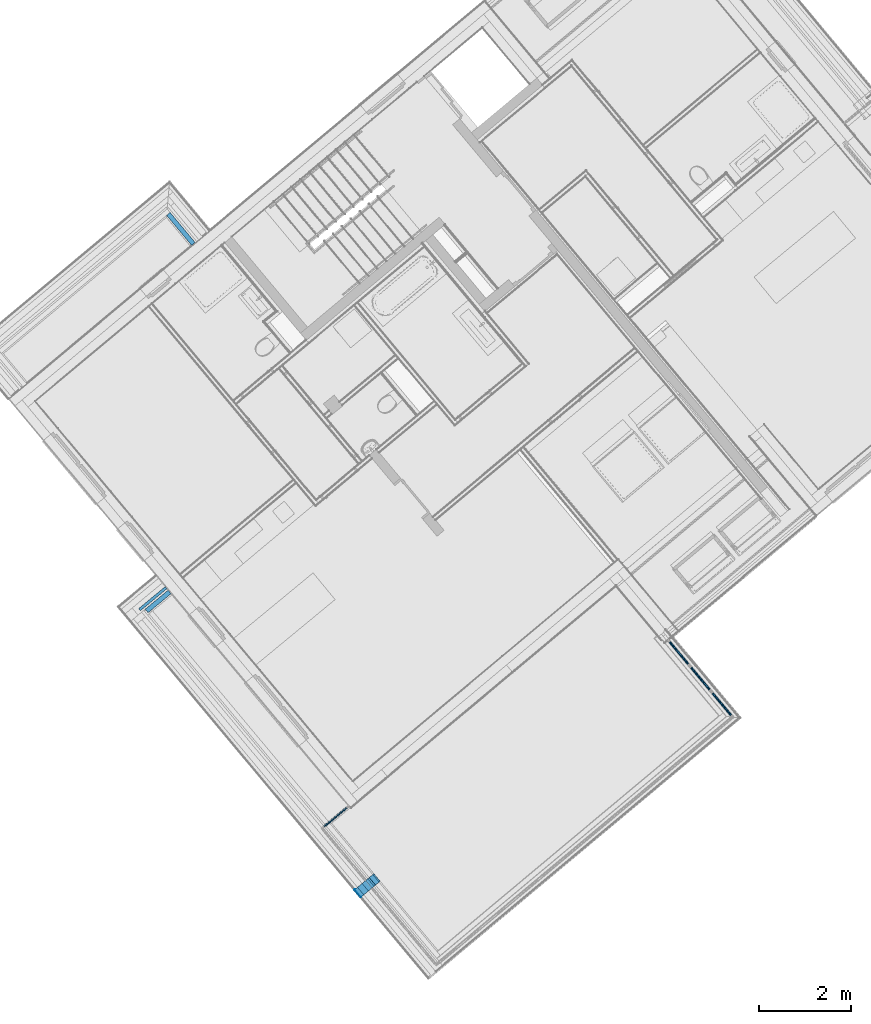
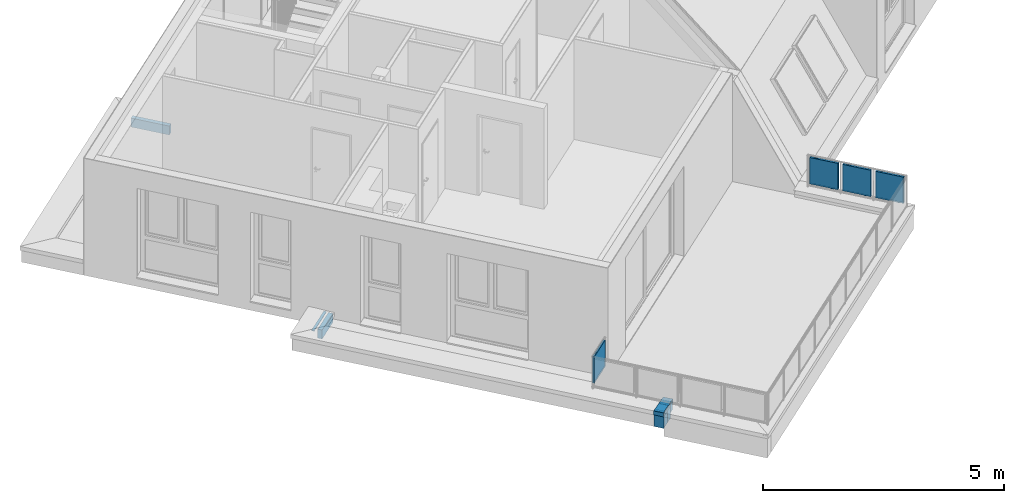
# One storey, part 44 of 61: 20 building element parts, 4 elements without a shape of their own.
"""IFC4 building model written with IfcOpenShell, lengths in metres."""

import ifcopenshell
import ifcopenshell.guid

model = None  # the IFC model being written
_history = None  # IfcOwnerHistory: only IFC2X3 demands one
_inside = {}  # id of a spatial element -> (the spatial element, [elements in it])
_under = {}  # id of a project, library or spatial element -> (it, [spatial elements below it])
_declared = {}  # id of a project -> (the project, [libraries it declares])
_typed = {}  # id of a type object -> (the type object, [elements of that type])
_made_of = {}  # id of a material, layer set ... -> (it, [elements and type objects made of it])


def new_model(schema):
    """Start an empty IFC model of exactly this schema.

    Asked for "IFC4X3", IfcOpenShell would pick the latest addendum, in which some entities
    have other attributes; the version numbers below select the first issue.
    IFC2X3 requires an IfcOwnerHistory on every rooted entity: one is made here for all.
    """
    global model, _history
    if schema == "IFC4X3":
        model = ifcopenshell.file(schema_version=(4, 3, 0, 0))
    else:
        model = ifcopenshell.file(schema=schema)
    _inside.clear()
    _under.clear()
    _declared.clear()
    _typed.clear()
    _made_of.clear()
    _history = None
    if model.schema == "IFC2X3":
        org = make("IfcOrganization", Name="unknown")
        user = make(
            "IfcPersonAndOrganization",
            ThePerson=make("IfcPerson", FamilyName="unknown"),
            TheOrganization=org,
        )
        app = make(
            "IfcApplication",
            ApplicationDeveloper=org,
            Version="unknown",
            ApplicationFullName="unknown",
            ApplicationIdentifier="unknown",
        )
        _history = make(
            "IfcOwnerHistory",
            OwningUser=user,
            OwningApplication=app,
            ChangeAction="ADDED",
            CreationDate=0,
        )
    return model


def make(cls, **values):
    """One entity of the class cls with the attributes given. An attribute that is None is left unset."""
    return model.create_entity(
        cls, **{name: value for name, value in values.items() if value is not None}
    )


def entity(cls, *values):
    """Any entity or typed value of the class cls, its attributes in the order of the schema. None: left unset."""
    e = model.create_entity(cls)
    for i, value in enumerate(values):
        if value is not None:
            e[i] = value
    return e


def rooted(cls, **values):
    """An entity with a GlobalId (a new one), such as an element, a storey or a relation."""
    return make(cls, GlobalId=ifcopenshell.guid.new(), OwnerHistory=_history, **values)


def si_unit(unit_type, name, prefix=None):
    """IfcSIUnit, for example si_unit("LENGTHUNIT", "METRE", prefix="MILLI")."""
    return make("IfcSIUnit", UnitType=unit_type, Prefix=prefix, Name=name)


def converted_unit(unit_type, name, factor, base, dimensions=None, offset=None):
    """IfcConversionBasedUnit, such as the inch: factor (a typed value) times the base unit."""
    return make(
        "IfcConversionBasedUnit"
        if offset is None
        else "IfcConversionBasedUnitWithOffset",
        ConversionOffset=offset,
        Dimensions=None
        if dimensions is None
        else entity("IfcDimensionalExponents", *dimensions),
        UnitType=unit_type,
        Name=name,
        ConversionFactor=make(
            "IfcMeasureWithUnit", ValueComponent=factor, UnitComponent=base
        ),
    )


def derived_unit(unit_type, elements):
    """IfcDerivedUnit: a product of units, each with its exponent."""
    return make(
        "IfcDerivedUnit",
        Elements=[
            make("IfcDerivedUnitElement", Unit=unit, Exponent=power)
            for unit, power in elements
        ],
        UnitType=unit_type,
    )


def assignment(units):
    """IfcUnitAssignment: the units of a project."""
    return None if units is None else make("IfcUnitAssignment", Units=units)


def point(xyz):
    """IfcCartesianPoint."""
    return None if xyz is None else make("IfcCartesianPoint", Coordinates=xyz)


def direction(xyz):
    """IfcDirection."""
    return None if xyz is None else make("IfcDirection", DirectionRatios=xyz)


def frame(location, z_axis=None, x_axis=None):
    """IfcAxis2Placement3D, a coordinate frame: its origin and axes. An axis left out is left unset."""
    return make(
        "IfcAxis2Placement3D",
        Location=point(location),
        Axis=direction(z_axis),
        RefDirection=direction(x_axis),
    )


def origin_with_axes():
    """The frame at (0, 0, 0) with the z axis (0, 0, 1) and the x axis (1, 0, 0) written out."""
    return frame((0.0, 0.0, 0.0), z_axis=(0.0, 0.0, 1.0), x_axis=(1.0, 0.0, 0.0))


def place(relative_to, where):
    """IfcLocalPlacement: puts the frame where relative to a parent placement (None: the world)."""
    return make(
        "IfcLocalPlacement", PlacementRelTo=relative_to, RelativePlacement=where
    )


def context(
    kind, dimensions, precision=None, world=None, true_north=None, identifier=None
):
    """IfcGeometricRepresentationContext, for example the 3D "Model" context."""
    return make(
        "IfcGeometricRepresentationContext",
        ContextIdentifier=identifier,
        ContextType=kind,
        CoordinateSpaceDimension=dimensions,
        Precision=precision,
        WorldCoordinateSystem=world,
        TrueNorth=true_north,
    )


def subcontext(parent, identifier, kind, view, scale=None):
    """IfcGeometricRepresentationSubContext, for example "Body" below "Model"."""
    return make(
        "IfcGeometricRepresentationSubContext",
        ContextIdentifier=identifier,
        ContextType=kind,
        ParentContext=parent,
        TargetScale=scale,
        TargetView=view,
    )


def project(units=None, contexts=None):
    """IfcProject with its units and contexts."""
    return rooted(
        "IfcProject",
        Name="project",
        RepresentationContexts=contexts,
        UnitsInContext=assignment(units),
    )


def spatial(cls, under=None, at=None, **own):
    """A site, building, storey or space (cls), placed at a placement, below another one or the project."""
    s = rooted(cls, ObjectPlacement=at, **own)
    if under is not None:
        _under.setdefault(under.id(), (under, []))[1].append(s)
    return s


def point_list(points):
    """IfcCartesianPointList2D or 3D."""
    cls = (
        "IfcCartesianPointList2D" if len(points[0]) == 2 else "IfcCartesianPointList3D"
    )
    return make(cls, CoordList=points)


def polygons(points, faces, closed=None, point_numbers=None):
    """IfcPolygonalFaceSet: a face is its outer loop, then its inner loops; points numbered from 1."""
    made = []
    for loops in faces:
        if len(loops) == 1:
            made.append(make("IfcIndexedPolygonalFace", CoordIndex=loops[0]))
        else:
            made.append(
                make(
                    "IfcIndexedPolygonalFaceWithVoids",
                    CoordIndex=loops[0],
                    InnerCoordIndices=loops[1:],
                )
            )
    return make(
        "IfcPolygonalFaceSet",
        Coordinates=point_list(points),
        Closed=closed,
        Faces=made,
        PnIndex=point_numbers,
    )


def shape(context_of_items, identifier, shape_type, items):
    """IfcShapeRepresentation: the items that make up one representation, for example the "Body"."""
    return make(
        "IfcShapeRepresentation",
        ContextOfItems=context_of_items,
        RepresentationIdentifier=identifier,
        RepresentationType=shape_type,
        Items=items,
    )


def material(Name=None, Category=None):
    """IfcMaterial."""
    return make("IfcMaterial", Name=Name, Category=Category)


def made_of(thing, what):
    """Note that an element or type object is made of a material, layer set ...; save() writes the relation."""
    if what is not None:
        _made_of.setdefault(what.id(), (what, []))[1].append(thing)
    return thing


def type_object(cls, material=None, **own):
    """A type object (cls), such as IfcWallType, which elements share."""
    return made_of(rooted(cls, **own), material)


def element(
    cls,
    number,
    at=None,
    inside=None,
    cuts=None,
    type_object=None,
    material=None,
    context=None,
    identifier="Body",
    shape_type=None,
    held_by="IfcProductDefinitionShape",
    body=None,
    shapes=None,
    **own,
):
    """One element of the class cls, such as IfcWall. Its Tag is "e" and its number.

    at: its placement. inside: the storey or other place that contains it. cuts: it is an
    opening in that element (IfcRelVoidsElement). A single representation is given by context,
    identifier, shape_type and body (its items); several are given by shapes. held_by: the class
    of the entity that holds the representations. save() writes the other relations.
    """
    e = rooted(cls, Tag="e%d" % number, ObjectPlacement=at, **own)
    if body is not None:
        shapes = [shape(context, identifier, shape_type, body)]
    if shapes is not None:
        e.Representation = make(held_by, Representations=shapes)
    if inside is not None:
        _inside.setdefault(inside.id(), (inside, []))[1].append(e)
    if cuts is not None:
        rooted(
            "IfcRelVoidsElement", RelatingBuildingElement=cuts, RelatedOpeningElement=e
        )
    if type_object is not None:
        _typed.setdefault(type_object.id(), (type_object, []))[1].append(e)
    return made_of(e, material)


def aggregate(whole, parts):
    """IfcRelAggregates: a whole, such as a stair, and the parts it consists of."""
    return rooted("IfcRelAggregates", RelatingObject=whole, RelatedObjects=parts)


def save(model, path):
    """Write the relations noted so far, then the file.

    IfcRelAggregates (storeys below a building ...), IfcRelContainedInSpatialStructure (elements
    in a storey), IfcRelDefinesByType, IfcRelAssociatesMaterial and IfcRelDeclares: one each for
    every whole, place, type object, material and project.
    """
    for whole, parts in _under.values():
        aggregate(whole, parts)
    for where, things in _inside.values():
        rooted(
            "IfcRelContainedInSpatialStructure",
            RelatedElements=things,
            RelatingStructure=where,
        )
    for kind, things in _typed.values():
        rooted("IfcRelDefinesByType", RelatedObjects=things, RelatingType=kind)
    for what, things in _made_of.values():
        rooted("IfcRelAssociatesMaterial", RelatedObjects=things, RelatingMaterial=what)
    for by, libraries in _declared.values():
        rooted("IfcRelDeclares", RelatingContext=by, RelatedDefinitions=libraries)
    model.write(path)


model = new_model("IFC4")

# Units and contexts
model_context = context("Model", 3, precision=1e-05, world=origin_with_axes(), true_north=direction((0.0, 1.0)))
body_context = subcontext(model_context, "Body", "Model", "MODEL_VIEW")
ifc_project = project(units=[si_unit("LENGTHUNIT", "METRE"), si_unit("AREAUNIT", "SQUARE_METRE"), si_unit("VOLUMEUNIT", "CUBIC_METRE"), converted_unit("PLANEANGLEUNIT", "DEGREE", entity("IfcPlaneAngleMeasure", 0.0174532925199), si_unit("PLANEANGLEUNIT", "RADIAN"), dimensions=[0, 0, 0, 0, 0, 0, 0]), converted_unit("TIMEUNIT", "Year", entity("IfcTimeMeasure", 31556926.0), si_unit("TIMEUNIT", "SECOND"), dimensions=[0, 0, 1, 0, 0, 0, 0]), si_unit("MASSUNIT", "GRAM", prefix="KILO"), si_unit("THERMODYNAMICTEMPERATUREUNIT", "DEGREE_CELSIUS"), si_unit("LUMINOUSINTENSITYUNIT", "LUMEN"), si_unit("ENERGYUNIT", "JOULE", prefix="MEGA"), derived_unit("THERMALCONDUCTANCEUNIT", [(si_unit("POWERUNIT", "WATT"), 1), (si_unit("LENGTHUNIT", "METRE"), -1), (si_unit("THERMODYNAMICTEMPERATUREUNIT", "KELVIN"), -1)]), derived_unit("SPECIFICHEATCAPACITYUNIT", [(si_unit("ENERGYUNIT", "JOULE"), 1), (si_unit("MASSUNIT", "GRAM", prefix="KILO"), -1), (si_unit("THERMODYNAMICTEMPERATUREUNIT", "KELVIN"), -1)]), derived_unit("MASSDENSITYUNIT", [(si_unit("MASSUNIT", "GRAM", prefix="KILO"), 1), (si_unit("VOLUMEUNIT", "CUBIC_METRE"), -1)])], contexts=[model_context])

# Site, building, storey
site_placement = place(None, frame((-0.00153261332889, -0.00661245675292, 0.0), z_axis=(0.0, 0.0, 1.0), x_axis=(1.0, 0.0, 0.0)))
site = spatial("IfcSite", under=ifc_project, at=site_placement, Name="Gelände", CompositionType="ELEMENT")
building_placement = place(site_placement, origin_with_axes())
building = spatial("IfcBuilding", under=site, at=building_placement, Name="Gebäude", CompositionType="ELEMENT")
storey_placement = place(building_placement, frame((0.0, 0.0, 5.7), z_axis=(0.0, 0.0, 1.0), x_axis=(1.0, 0.0, 0.0)))
storey = spatial("IfcBuildingStorey", under=building, at=storey_placement, Name="DG1", CompositionType="ELEMENT", Elevation=5.7)

# Wall, building element parts
wall_type = type_object("IfcWallType", Name="Bauteil - Attika Terrasse 1.DG 574 x 410", PredefinedType="NOTDEFINED")
wall_1_placement = place(storey_placement, frame((-5.34189117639, 15.0197766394, -0.2), z_axis=(0.0, 0.0, 1.0), x_axis=(-0.768971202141, -0.639283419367, 0.0)))
wall_1 = element("IfcWall", 1, at=wall_1_placement, inside=storey, type_object=wall_type, Name="Wand-003", PredefinedType="NOTDEFINED")
ifc_material_1 = material(Name="EPS 1")
building_element_part_1_placement = place(wall_1_placement, origin_with_axes())
building_element_part_1 = element("IfcBuildingElementPart", 2, at=building_element_part_1_placement, material=ifc_material_1, Name="EPS 1", PredefinedType="NOTDEFINED", context=body_context, shape_type="Tessellation", body=[
    polygons([(0.646310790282, 0.2, 0.559999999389), (0.646099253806, 0.3, 0.559999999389), (0.0, 0.3, 0.560000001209), (0.0, 0.2, 0.560000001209), (0.646099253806, 0.3, 0.519224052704), (0.646310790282, 0.2, 0.519224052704), (0.646099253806, 0.3, 0.511361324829), (0.646099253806, 0.3, 0.50905023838), (0.646099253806, 0.29999999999, 0.500000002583), (0.646099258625, 0.3, 0.498822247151), (0.646099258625, 0.3, 0.49100648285), (0.646099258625, 0.3, 0.488695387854), (0.646099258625, 0.3, 0.335), (0.0, 0.3, 0.335), (0.0, 0.2, 0.335), (0.646310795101, 0.2, 0.335), (0.646310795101, 0.2, 0.488695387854), (0.646310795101, 0.2, 0.49100648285), (0.646310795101, 0.2, 0.498822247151), (0.646310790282, 0.19999999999, 0.500000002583), (0.646310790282, 0.2, 0.50905023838), (0.646310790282, 0.2, 0.511361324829)], [[[1, 2, 3, 4]], [[5, 2, 1, 6]], [[2, 5, 7, 8, 9, 10, 11, 12, 13, 14, 3]], [[15, 4, 3, 14]], [[6, 1, 4, 15, 16, 17, 18, 19, 20, 21, 22]], [[5, 6, 22, 7]], [[7, 22, 21, 8]], [[8, 21, 20, 9]], [[9, 20, 19, 10]], [[10, 19, 18, 11]], [[11, 18, 17, 12]], [[12, 17, 16, 13]], [[13, 16, 15, 14]]], closed=True),
])
ifc_material_2 = material(Name="Vollholz")
building_element_part_2_placement = place(wall_1_placement, origin_with_axes())
building_element_part_2 = element("IfcBuildingElementPart", 3, at=building_element_part_2_placement, material=ifc_material_2, Name="Vollholz", PredefinedType="NOTDEFINED", context=body_context, shape_type="Tessellation", body=[
    polygons([(0.74652254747, 0.1, 0.575979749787), (0.746395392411, 0.160110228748, 0.573880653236), (0.0, 0.160110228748, 0.573880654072), (0.0, 0.1, 0.575979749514), (0.74652254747, 0.1, 0.573880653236), (0.746395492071, 0.160063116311, 0.567947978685), (0.746395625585, 0.16, 0.559999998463), (0.0, 0.16, 0.560000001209), (0.0, 0.1, 0.560000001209), (0.74652254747, 0.1, 0.559999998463), (0.74652254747, 0.1, 0.567947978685)], [[[1, 2, 3, 4]], [[5, 2, 1]], [[2, 6, 7, 8, 3]], [[8, 9, 4, 3]], [[5, 1, 4, 9, 10, 11]], [[2, 5, 11, 6]], [[6, 11, 10, 7]], [[7, 10, 9, 8]]], closed=True),
])
aggregate(wall_1, [building_element_part_1, building_element_part_2])

wall_2_placement = place(storey_placement, frame((-0.869246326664, 8.34153645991, -0.2), z_axis=(0.0, 0.0, 1.0), x_axis=(-0.640442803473, 0.76800586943, 0.0)))
wall_2 = element("IfcWall", 4, at=wall_2_placement, inside=storey, type_object=wall_type, Name="Wand-004", PredefinedType="NOTDEFINED")
ifc_material_3 = material(Name="Zementputz")
building_element_part_3_placement = place(wall_2_placement, origin_with_axes())
building_element_part_3 = element("IfcBuildingElementPart", 5, at=building_element_part_3_placement, material=ifc_material_3, Name="Zementputz", PredefinedType="NOTDEFINED", context=body_context, shape_type="Tessellation", body=[
    polygons([(0.214939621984, 0.199999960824, 0.2), (0.214939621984, 0.199999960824, 0.499999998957), (-6.64236760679e-05, 0.199999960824, 0.499999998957), (-6.64236760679e-05, 0.199999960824, 0.2), (0.21493507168, 0.21499996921, 0.499999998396), (0.21493507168, 0.21499996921, 0.2), (-7.14054555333e-05, 0.21499996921, 0.499999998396), (-7.14054555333e-05, 0.21499996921, 0.2)], [[[1, 2, 3, 4]], [[5, 2, 1, 6]], [[2, 5, 7, 3]], [[4, 3, 7, 8]], [[6, 1, 4, 8]], [[5, 6, 8, 7]]], closed=True),
])
building_element_part_4_placement = place(wall_2_placement, origin_with_axes())
building_element_part_4 = element("IfcBuildingElementPart", 6, at=building_element_part_4_placement, material=ifc_material_2, Name="Vollholz", PredefinedType="NOTDEFINED", context=body_context, shape_type="Tessellation", body=[
    polygons([(0.2149608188, 0.130124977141, 0.560000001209), (0.2149608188, 0.130124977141, 0.584015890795), (-4.3216905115e-05, 0.130124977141, 0.584015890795), (-4.3216905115e-05, 0.130124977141, 0.560000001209), (0.214942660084, 0.189984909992, 0.586106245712), (0.214942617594, 0.190124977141, 0.560000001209), (-6.30974929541e-05, 0.189984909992, 0.586106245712), (-6.31440118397e-05, 0.190124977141, 0.560000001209)], [[[1, 2, 3, 4]], [[5, 2, 1, 6]], [[2, 5, 7, 3]], [[4, 3, 7, 8]], [[6, 1, 4, 8]], [[5, 6, 8, 7]]], closed=True),
])
building_element_part_5_placement = place(wall_2_placement, origin_with_axes())
building_element_part_5 = element("IfcBuildingElementPart", 7, at=building_element_part_5_placement, material=ifc_material_1, Name="EPS 1", PredefinedType="NOTDEFINED", context=body_context, shape_type="Tessellation", body=[
    polygons([(0.215000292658, 2.3990853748e-10, 0.2), (0.215000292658, 2.3990853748e-10, 0.499999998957), (0.0, 2.39907649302e-10, 0.499999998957), (0.0, 2.39907649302e-10, 0.2), (0.214939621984, 0.19999996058, 0.499999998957), (0.214939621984, 0.19999996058, 0.2), (-6.64236759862e-05, 0.19999996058, 0.499999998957), (-6.64236759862e-05, 0.19999996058, 0.2)], [[[1, 2, 3, 4]], [[5, 2, 1, 6]], [[2, 5, 7, 3]], [[4, 3, 7, 8]], [[6, 1, 4, 8]], [[5, 6, 8, 7]]], closed=True),
])
ifc_material_4 = material(Name="Brettschichtholz")
building_element_part_6_placement = place(wall_2_placement, origin_with_axes())
building_element_part_6 = element("IfcBuildingElementPart", 8, at=building_element_part_6_placement, material=ifc_material_4, Name="Brettschichtholz", PredefinedType="NOTDEFINED", context=body_context, shape_type="Tessellation", body=[
    polygons([(0.215060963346, -0.200000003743, 0.500000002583), (0.215060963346, -0.200000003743, 0.559999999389), (6.64236903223e-05, -0.200000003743, 0.559999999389), (6.64236903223e-05, -0.200000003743, 0.500000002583), (0.215048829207, -0.159999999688, 0.559999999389), (0.21493507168, 0.21499996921, 0.499999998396), (0.21493507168, 0.21499996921, 0.50905023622), (0.214935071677, 0.214999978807, 0.559999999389), (0.214942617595, 0.190124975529, 0.559999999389), (0.214960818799, 0.130124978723, 0.559999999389), (0.215030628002, -0.100000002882, 0.559999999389), (5.31389511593e-05, -0.159999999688, 0.559999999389), (3.32118454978e-05, -0.100000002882, 0.559999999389), (-4.32169056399e-05, 0.130124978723, 0.559999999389), (-6.31440113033e-05, 0.190124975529, 0.559999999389), (-7.140545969e-05, 0.214999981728, 0.559999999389), (-7.14054555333e-05, 0.21499996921, 0.50905023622), (-7.14054555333e-05, 0.21499996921, 0.499999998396)], [[[1, 2, 3, 4]], [[5, 2, 1, 6, 7, 8, 9, 10, 11]], [[2, 5, 12, 3]], [[4, 3, 12, 13, 14, 15, 16, 17, 18]], [[6, 1, 4, 18]], [[7, 6, 18, 17, 16, 8]], [[9, 8, 16, 15]], [[10, 9, 15, 14]], [[11, 10, 14, 13]], [[5, 11, 13, 12]]], closed=True),
])
ifc_material_5 = material(Name="Stahlbeton")
building_element_part_7_placement = place(wall_2_placement, origin_with_axes())
building_element_part_7 = element("IfcBuildingElementPart", 9, at=building_element_part_7_placement, material=ifc_material_5, Name="Stahlbeton", PredefinedType="NOTDEFINED", context=body_context, shape_type="Tessellation", body=[
    polygons([(0.215060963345, -0.200000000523, 0.335000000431), (0.215060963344, -0.199999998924, 0.500000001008), (6.64236887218e-05, -0.199999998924, 0.500000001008), (6.6423689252e-05, -0.200000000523, 0.335000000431), (0.215000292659, -1.82835613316e-09, 0.500000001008), (0.215060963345, -0.200000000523, 0.2), (0.215000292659, -1.82835613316e-09, 0.2), (0.0, -1.82835613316e-09, 0.500000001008), (0.0, -1.82835613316e-09, 0.2), (6.6423689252e-05, -0.200000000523, 0.2)], [[[1, 2, 3, 4]], [[5, 2, 1, 6, 7]], [[2, 5, 8, 3]], [[4, 3, 8, 9, 10]], [[6, 1, 4, 10]], [[7, 6, 10, 9]], [[5, 7, 9, 8]]], closed=True),
])
building_element_part_8_placement = place(wall_2_placement, origin_with_axes())
building_element_part_8 = element("IfcBuildingElementPart", 10, at=building_element_part_8_placement, material=ifc_material_2, Name="Vollholz", PredefinedType="NOTDEFINED", context=body_context, shape_type="Tessellation", body=[
    polygons([(0.215048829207, -0.16, 0.560000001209), (0.215048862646, -0.160110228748, 0.573880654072), (5.31755602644e-05, -0.160110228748, 0.573880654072), (5.31389512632e-05, -0.16, 0.560000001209), (0.215030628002, -0.1, 0.575979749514), (0.215030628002, -0.1, 0.560000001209), (3.32118445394e-05, -0.1, 0.575979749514), (3.32118445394e-05, -0.1, 0.560000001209)], [[[1, 2, 3, 4]], [[5, 2, 1, 6]], [[2, 5, 7, 3]], [[4, 3, 7, 8]], [[6, 1, 4, 8]], [[5, 6, 8, 7]]], closed=True),
])
building_element_part_9_placement = place(wall_2_placement, origin_with_axes())
building_element_part_9 = element("IfcBuildingElementPart", 11, at=building_element_part_9_placement, material=ifc_material_1, Name="EPS 1", PredefinedType="NOTDEFINED", context=body_context, shape_type="Tessellation", body=[
    polygons([(0.21509129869, -0.300000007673, 0.335000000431), (0.21509129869, -0.300000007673, 0.48869539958), (0.215091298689, -0.30000000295, 0.560000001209), (9.96355336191e-05, -0.3, 0.560000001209), (9.96355361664e-05, -0.300000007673, 0.48869539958), (9.96355361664e-05, -0.300000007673, 0.335000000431), (0.215060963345, -0.2, 0.560000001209), (0.215060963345, -0.200000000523, 0.335000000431), (6.64236890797e-05, -0.2, 0.560000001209), (6.6423689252e-05, -0.200000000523, 0.335000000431)], [[[1, 2, 3, 4, 5, 6]], [[7, 3, 2, 1, 8]], [[3, 7, 9, 4]], [[5, 4, 9, 10, 6]], [[8, 1, 6, 10]], [[7, 8, 10, 9]]], closed=True),
])
ifc_material_6 = material(Name="Holzwerkstoff")
building_element_part_10_placement = place(wall_2_placement, origin_with_axes())
building_element_part_10 = element("IfcBuildingElementPart", 12, at=building_element_part_10_placement, material=ifc_material_6, Name="Holzwerkstoff", PredefinedType="NOTDEFINED", context=body_context, shape_type="Tessellation", body=[
    polygons([(-8.02066887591e-05, 0.239999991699, 0.587852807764), (0.214927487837, 0.239999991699, 0.587852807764), (0.214942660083, 0.189984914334, 0.586106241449), (-6.30974943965e-05, 0.189984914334, 0.586106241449), (-8.02066887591e-05, 0.239276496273, 0.608570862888), (0.214927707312, 0.239276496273, 0.608570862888), (0.21510102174, -0.330698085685, 0.587938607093), (0.21510102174, -0.329999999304, 0.567947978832), (0.215048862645, -0.160110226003, 0.573880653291), (0.215030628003, -0.100000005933, 0.575979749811), (0.214960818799, 0.130124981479, 0.584015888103), (-4.32169065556e-05, 0.130124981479, 0.584015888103), (3.32118465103e-05, -0.100000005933, 0.575979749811), (5.31755593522e-05, -0.160110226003, 0.573880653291), (0.00010959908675, -0.329999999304, 0.567947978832), (0.000109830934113, -0.330698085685, 0.587938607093)], [[[1, 2, 3, 4]], [[1, 5, 6, 2]], [[3, 2, 6, 7, 8, 9, 10, 11]], [[3, 11, 12, 4]], [[5, 1, 4, 12, 13, 14, 15, 16]], [[6, 5, 16, 7]], [[8, 7, 16, 15]], [[9, 8, 15, 14]], [[10, 9, 14, 13]], [[12, 11, 10, 13]]], closed=True),
])
ifc_material_7 = material(Name="Stahl")
building_element_part_11_placement = place(wall_2_placement, origin_with_axes())
building_element_part_11 = element("IfcBuildingElementPart", 13, at=building_element_part_11_placement, material=ifc_material_7, Name="Stahl", PredefinedType="NOTDEFINED", context=body_context, shape_type="Tessellation", body=[
    polygons([(-8.02066887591e-05, 0.240542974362, 0.509050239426), (-8.02066887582e-05, 0.241500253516, 0.510007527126), (0.214927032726, 0.241500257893, 0.510007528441), (0.214927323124, 0.240542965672, 0.50905023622), (-8.02066887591e-05, 0.231373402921, 0.518219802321), (-8.020668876e-05, 0.232283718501, 0.519224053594), (-8.02066887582e-05, 0.240146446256, 0.51136132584), (-8.020668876e-05, 0.240152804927, 0.608602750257), (-8.02066887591e-05, 0.239276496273, 0.608570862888), (-8.02066887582e-05, 0.241500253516, 0.610006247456), (0.214927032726, 0.241500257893, 0.610006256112), (0.21510102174, -0.332051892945, 0.589243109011), (0.21510102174, -0.332051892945, 0.489652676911), (0.21510102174, -0.331094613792, 0.488695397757), (0.21510102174, -0.321878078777, 0.497911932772), (0.21510102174, -0.32288233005, 0.498822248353), (0.21510102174, -0.330698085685, 0.491006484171), (0.21510102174, -0.330698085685, 0.587937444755), (0.214927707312, 0.239276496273, 0.608570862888), (0.214927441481, 0.240152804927, 0.608602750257), (0.21492744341, 0.240146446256, 0.51136132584), (0.214929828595, 0.232283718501, 0.519224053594), (0.214930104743, 0.231373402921, 0.518219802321), (0.000110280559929, -0.332051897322, 0.589243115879), (0.000109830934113, -0.330698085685, 0.587937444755), (0.000109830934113, -0.330698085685, 0.491006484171), (0.000107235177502, -0.32288233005, 0.498822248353), (0.000106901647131, -0.321878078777, 0.497911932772), (0.000109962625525, -0.331094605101, 0.48869539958), (0.000110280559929, -0.332051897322, 0.489652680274)], [[[1, 2, 3, 4]], [[2, 1, 5, 6, 7, 8, 9, 10]], [[2, 10, 11, 3]], [[3, 11, 12, 13, 14, 15, 16, 17, 18, 19, 20, 21, 22, 23, 4]], [[4, 23, 5, 1]], [[23, 22, 6, 5]], [[22, 21, 7, 6]], [[21, 20, 8, 7]], [[20, 19, 9, 8]], [[24, 10, 9, 25, 26, 27, 28, 29, 30]], [[11, 10, 24, 12]], [[13, 12, 24, 30]], [[14, 13, 30, 29]], [[28, 15, 14, 29]], [[15, 28, 27, 16]], [[27, 26, 17, 16]], [[26, 25, 18, 17]], [[9, 19, 18, 25]]], closed=True),
])
aggregate(wall_2, [building_element_part_3, building_element_part_4, building_element_part_5, building_element_part_6, building_element_part_7, building_element_part_8, building_element_part_9, building_element_part_10, building_element_part_11])

# Wall, building element part
wall_3_placement = place(storey_placement, frame((-5.20937569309, 23.4149390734, -0.2), z_axis=(0.0, 0.0, 1.0), x_axis=(0.641209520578, -0.767365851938, 0.0)))
wall_3 = element("IfcWall", 14, at=wall_3_placement, inside=storey, type_object=wall_type, Name="Wand-005", PredefinedType="NOTDEFINED")
building_element_part_12_placement = place(wall_3_placement, origin_with_axes())
building_element_part_12 = element("IfcBuildingElementPart", 15, at=building_element_part_12_placement, material=ifc_material_1, Name="EPS 1", PredefinedType="NOTDEFINED", context=body_context, shape_type="Tessellation", body=[
    polygons([(0.299999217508, -0.2, 0.519224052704), (0.299999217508, -0.2, 0.560000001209), (1.14643969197, -0.2, 0.560000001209), (1.14643969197, -0.2, 0.335), (0.299999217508, -0.2, 0.335), (0.299999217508, -0.2, 0.488695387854), (0.299999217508, -0.2, 0.49100648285), (0.299999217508, -0.2, 0.498822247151), (0.299999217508, -0.2, 0.499999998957), (0.299999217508, -0.2, 0.50905023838), (0.299999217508, -0.2, 0.511361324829), (0.29999882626, -0.3, 0.560000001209), (0.29999882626, -0.3, 0.519224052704), (1.14643969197, -0.3, 0.560000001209), (1.14643969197, -0.3, 0.335), (0.29999882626, -0.3, 0.335), (0.29999882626, -0.3, 0.488695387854), (0.29999882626, -0.3, 0.49100648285), (0.29999882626, -0.3, 0.498822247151), (0.29999882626, -0.3, 0.499999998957), (0.29999882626, -0.3, 0.50905023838), (0.29999882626, -0.3, 0.511361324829)], [[[1, 2, 3, 4, 5, 6, 7, 8, 9, 10, 11]], [[12, 2, 1, 13]], [[2, 12, 14, 3]], [[15, 4, 3, 14]], [[16, 5, 4, 15]], [[17, 6, 5, 16]], [[18, 7, 6, 17]], [[19, 8, 7, 18]], [[20, 9, 8, 19]], [[21, 10, 9, 20]], [[22, 11, 10, 21]], [[13, 1, 11, 22]], [[12, 13, 22, 21, 20, 19, 18, 17, 16, 15, 14]]], closed=True),
])
aggregate(wall_3, [building_element_part_12])

# Space
space_placement = place(storey_placement, frame((-1.65459986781, 9.80045444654, 0.22), z_axis=(0.0, 0.0, 1.0), x_axis=(0.640908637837, -0.767617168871, 0.0)))
space = spatial("IfcSpace", under=storey, at=space_placement, CompositionType="ELEMENT", PredefinedType="NOTDEFINED")

# Railing, building element parts
railing_type = type_object("IfcRailingType", Name="Geländerart", PredefinedType="NOTDEFINED")
railing_placement = place(space_placement, frame((-0.0155551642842, 0.517171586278, 0.16), z_axis=(0.0, 0.0, 1.0), x_axis=(0.640908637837, 0.767617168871, 0.0)))
railing = element("IfcRailing", 16, at=railing_placement, inside=space, type_object=railing_type, Name="Geländer - 001", PredefinedType="NOTDEFINED")
ifc_material_8 = material(Name="Profilit")
building_element_part_13_placement = place(railing_placement, origin_with_axes())
building_element_part_13 = element("IfcBuildingElementPart", 17, at=building_element_part_13_placement, material=ifc_material_8, Name="Profilit", PredefinedType="NOTDEFINED", context=body_context, shape_type="Tessellation", body=[
    polygons([(-0.550857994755, -0.407819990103, 0.135), (-0.0755314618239, -0.0109543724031, 0.135), (-0.0755314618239, -0.0109543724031, 0.775), (-0.550857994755, -0.407819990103, 0.775), (-0.0883496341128, 0.00439797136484, 0.135), (-0.563676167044, -0.392467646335, 0.135), (-0.0883496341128, 0.00439797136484, 0.775), (-0.563676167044, -0.392467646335, 0.775)], [[[1, 2, 3, 4]], [[5, 2, 1, 6]], [[7, 3, 2, 5]], [[4, 3, 7, 8]], [[1, 4, 8, 6]], [[7, 5, 6, 8]]], closed=True),
])
ifc_material_9 = material(Name="Aluminium")
building_element_part_14_placement = place(railing_placement, origin_with_axes())
building_element_part_14 = element("IfcBuildingElementPart", 18, at=building_element_part_14_placement, material=ifc_material_9, Name="Aluminium", PredefinedType="NOTDEFINED", context=body_context, shape_type="Tessellation", body=[
    polygons([(-0.145585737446, -0.0596744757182, 0.12), (-0.199318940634, -0.10453807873, 0.12), (-0.199318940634, -0.10453807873, 0.095), (-0.145585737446, -0.0596744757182, 0.095), (-0.148790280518, -0.0558363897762, 0.12), (-0.202523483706, -0.100699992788, 0.12), (-0.202523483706, -0.100699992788, 0.095), (-0.148790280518, -0.0558363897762, 0.095)], [[[1, 2, 3, 4]], [[5, 6, 2, 1]], [[2, 6, 7, 3]], [[4, 3, 7, 8]], [[1, 4, 8, 5]], [[8, 7, 6, 5]]], closed=True),
    polygons([(-0.49041734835, -0.347585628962, 0.79), (-0.436684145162, -0.302722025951, 0.79), (-0.436684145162, -0.302722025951, 0.795), (-0.49041734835, -0.347585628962, 0.795), (-0.493621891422, -0.34374754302, 0.79), (-0.439888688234, -0.298883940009, 0.79), (-0.439888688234, -0.298883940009, 0.795), (-0.493621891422, -0.34374754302, 0.795)], [[[1, 2, 3, 4]], [[5, 6, 2, 1]], [[2, 6, 7, 3]], [[4, 3, 7, 8]], [[1, 4, 8, 5]], [[8, 7, 6, 5]]], closed=True),
    polygons([(-0.0864490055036, 0.0255258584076, 0.12), (-0.0544035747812, -0.0128550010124, 0.12), (-0.552758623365, -0.428947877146, 0.12), (-0.584804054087, -0.390567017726, 0.12), (-0.101801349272, 0.0127076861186, 0.14), (-0.0921877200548, 0.0011934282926, 0.14), (-0.0883496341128, 0.00439797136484, 0.135), (-0.0755314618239, -0.0109543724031, 0.135), (-0.0793695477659, -0.0141589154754, 0.14), (-0.0697559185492, -0.0256731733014, 0.14), (-0.537406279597, -0.416129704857, 0.14), (-0.537406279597, -0.416129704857, 0.77), (-0.0697559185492, -0.0256731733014, 0.77), (-0.0697559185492, -0.0256731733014, 0.14), (-0.0544035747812, -0.0128550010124, 0.12), (-0.0544035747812, -0.0128550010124, 0.79), (-0.552758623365, -0.428947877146, 0.79), (-0.584804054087, -0.390567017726, 0.79), (-0.0864490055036, 0.0255258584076, 0.79), (-0.0864490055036, 0.0255258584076, 0.12), (-0.101801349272, 0.0127076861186, 0.14), (-0.101801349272, 0.0127076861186, 0.77), (-0.569451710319, -0.377748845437, 0.77), (-0.569451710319, -0.377748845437, 0.14), (-0.559838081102, -0.389263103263, 0.14), (-0.559838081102, -0.389263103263, 0.77), (-0.0921877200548, 0.0011934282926, 0.77), (-0.0921877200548, 0.0011934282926, 0.14), (-0.0883496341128, 0.00439797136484, 0.135), (-0.0883496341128, 0.00439797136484, 0.775), (-0.563676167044, -0.392467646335, 0.775), (-0.563676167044, -0.392467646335, 0.135), (-0.550857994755, -0.407819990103, 0.135), (-0.550857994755, -0.407819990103, 0.775), (-0.0755314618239, -0.0109543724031, 0.775), (-0.0755314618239, -0.0109543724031, 0.135), (-0.0793695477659, -0.0141589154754, 0.14), (-0.0793695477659, -0.0141589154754, 0.77), (-0.547019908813, -0.404615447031, 0.77), (-0.547019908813, -0.404615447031, 0.14)], [[[1, 2, 3, 4]], [[1, 5, 6, 7, 8, 9, 10, 2]], [[2, 10, 11, 12, 13, 14, 15, 16, 17, 3]], [[4, 3, 17, 18]], [[5, 1, 4, 18, 19, 20, 21, 22, 23, 24]], [[6, 5, 24, 25]], [[7, 6, 25, 26, 27, 28, 29, 30, 31, 32]], [[8, 7, 32, 33]], [[9, 8, 33, 34, 35, 36, 37, 38, 39, 40]], [[10, 9, 40, 11]], [[11, 40, 39, 12]], [[12, 39, 38, 13]], [[13, 38, 37, 14]], [[20, 15, 14, 37, 36, 29, 28, 21]], [[19, 16, 15, 20]], [[18, 17, 16, 19]], [[27, 22, 21, 28]], [[26, 23, 22, 27]], [[25, 24, 23, 26]], [[35, 30, 29, 36]], [[34, 31, 30, 35]], [[33, 32, 31, 34]]], closed=True),
])
building_element_part_15_placement = place(railing_placement, origin_with_axes())
building_element_part_15 = element("IfcBuildingElementPart", 19, at=building_element_part_15_placement, material=ifc_material_8, Name="Profilit", PredefinedType="NOTDEFINED", context=body_context, shape_type="Tessellation", body=[
    polygons([(7.86362164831, 2.46903607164, 0.135), (8.24549285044, 2.01275586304, 0.135), (8.24549285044, 2.01275586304, 0.775), (7.86362164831, 2.46903607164, 0.775), (8.26083016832, 2.02559201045, 0.135), (7.87895896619, 2.48187221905, 0.135), (8.26083016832, 2.02559201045, 0.775), (7.87895896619, 2.48187221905, 0.775)], [[[1, 2, 3, 4]], [[5, 2, 1, 6]], [[7, 3, 2, 5]], [[4, 3, 7, 8]], [[1, 4, 8, 6]], [[7, 5, 6, 8]]], closed=True),
])
building_element_part_16_placement = place(railing_placement, origin_with_axes())
building_element_part_16 = element("IfcBuildingElementPart", 20, at=building_element_part_16_placement, material=ifc_material_9, Name="Aluminium", PredefinedType="NOTDEFINED", context=body_context, shape_type="Tessellation", body=[
    polygons([(8.19669071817, 2.08275301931, 0.12), (8.15176420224, 2.13643363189, 0.12), (8.15176420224, 2.13643363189, 0.095), (8.19669071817, 2.08275301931, 0.095), (8.20052504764, 2.08596205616, 0.12), (8.15559853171, 2.13964266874, 0.12), (8.15559853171, 2.13964266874, 0.095), (8.20052504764, 2.08596205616, 0.095)], [[[1, 2, 3, 4]], [[5, 6, 2, 1]], [[2, 6, 7, 3]], [[4, 3, 7, 8]], [[1, 4, 8, 5]], [[8, 7, 6, 5]]], closed=True),
    polygons([(7.92392676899, 2.40866602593, 0.79), (7.96885328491, 2.35498541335, 0.79), (7.96885328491, 2.35498541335, 0.795), (7.92392676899, 2.40866602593, 0.795), (7.92776109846, 2.41187506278, 0.79), (7.97268761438, 2.3581944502, 0.79), (7.97268761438, 2.3581944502, 0.795), (7.92776109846, 2.41187506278, 0.795)], [[[1, 2, 3, 4]], [[5, 6, 2, 1]], [[2, 6, 7, 3]], [[4, 3, 7, 8]], [[1, 4, 8, 5]], [[8, 7, 6, 5]]], closed=True),
    polygons([(8.28196026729, 2.02371613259, 0.12), (8.24361697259, 1.99162576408, 0.12), (7.84249154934, 2.4709119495, 0.12), (7.88083484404, 2.50300231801, 0.12), (8.26912411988, 2.03905345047, 0.14), (8.25762113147, 2.02942633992, 0.14), (8.26083016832, 2.02559201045, 0.135), (8.24549285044, 2.01275586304, 0.135), (8.24228381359, 2.01659019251, 0.14), (8.23078082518, 2.00696308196, 0.14), (7.85532769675, 2.45557463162, 0.14), (7.85532769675, 2.45557463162, 0.77), (8.23078082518, 2.00696308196, 0.77), (8.23078082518, 2.00696308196, 0.14), (8.24361697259, 1.99162576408, 0.12), (8.24361697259, 1.99162576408, 0.79), (7.84249154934, 2.4709119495, 0.79), (7.88083484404, 2.50300231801, 0.79), (8.28196026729, 2.02371613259, 0.79), (8.28196026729, 2.02371613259, 0.12), (8.26912411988, 2.03905345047, 0.14), (8.26912411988, 2.03905345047, 0.77), (7.89367099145, 2.48766500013, 0.77), (7.89367099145, 2.48766500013, 0.14), (7.88216800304, 2.47803788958, 0.14), (7.88216800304, 2.47803788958, 0.77), (8.25762113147, 2.02942633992, 0.77), (8.25762113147, 2.02942633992, 0.14), (8.26083016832, 2.02559201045, 0.135), (8.26083016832, 2.02559201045, 0.775), (7.87895896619, 2.48187221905, 0.775), (7.87895896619, 2.48187221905, 0.135), (7.86362164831, 2.46903607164, 0.135), (7.86362164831, 2.46903607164, 0.775), (8.24549285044, 2.01275586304, 0.775), (8.24549285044, 2.01275586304, 0.135), (8.24228381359, 2.01659019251, 0.14), (8.24228381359, 2.01659019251, 0.77), (7.86683068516, 2.46520174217, 0.77), (7.86683068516, 2.46520174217, 0.14)], [[[1, 2, 3, 4]], [[1, 5, 6, 7, 8, 9, 10, 2]], [[2, 10, 11, 12, 13, 14, 15, 16, 17, 3]], [[4, 3, 17, 18]], [[5, 1, 4, 18, 19, 20, 21, 22, 23, 24]], [[6, 5, 24, 25]], [[7, 6, 25, 26, 27, 28, 29, 30, 31, 32]], [[8, 7, 32, 33]], [[9, 8, 33, 34, 35, 36, 37, 38, 39, 40]], [[10, 9, 40, 11]], [[11, 40, 39, 12]], [[12, 39, 38, 13]], [[13, 38, 37, 14]], [[20, 15, 14, 37, 36, 29, 28, 21]], [[19, 16, 15, 20]], [[18, 17, 16, 19]], [[27, 22, 21, 28]], [[26, 23, 22, 27]], [[25, 24, 23, 26]], [[35, 30, 29, 36]], [[34, 31, 30, 35]], [[33, 32, 31, 34]]], closed=True),
])
building_element_part_17_placement = place(railing_placement, origin_with_axes())
building_element_part_17 = element("IfcBuildingElementPart", 21, at=building_element_part_17_placement, material=ifc_material_8, Name="Profilit", PredefinedType="NOTDEFINED", context=body_context, shape_type="Tessellation", body=[
    polygons([(7.39831548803, 3.02500884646, 0.135), (7.78018669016, 2.56872863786, 0.135), (7.78018669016, 2.56872863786, 0.775), (7.39831548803, 3.02500884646, 0.775), (7.79552400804, 2.58156478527, 0.135), (7.41365280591, 3.03784499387, 0.135), (7.79552400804, 2.58156478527, 0.775), (7.41365280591, 3.03784499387, 0.775)], [[[1, 2, 3, 4]], [[5, 2, 1, 6]], [[7, 3, 2, 5]], [[4, 3, 7, 8]], [[1, 4, 8, 6]], [[7, 5, 6, 8]]], closed=True),
])
building_element_part_18_placement = place(railing_placement, origin_with_axes())
building_element_part_18 = element("IfcBuildingElementPart", 22, at=building_element_part_18_placement, material=ifc_material_9, Name="Aluminium", PredefinedType="NOTDEFINED", context=body_context, shape_type="Tessellation", body=[
    polygons([(7.73138455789, 2.63872579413, 0.12), (7.68645804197, 2.69240640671, 0.12), (7.68645804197, 2.69240640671, 0.095), (7.73138455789, 2.63872579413, 0.095), (7.73521888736, 2.64193483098, 0.12), (7.69029237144, 2.69561544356, 0.12), (7.69029237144, 2.69561544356, 0.095), (7.73521888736, 2.64193483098, 0.095)], [[[1, 2, 3, 4]], [[5, 6, 2, 1]], [[2, 6, 7, 3]], [[4, 3, 7, 8]], [[1, 4, 8, 5]], [[8, 7, 6, 5]]], closed=True),
    polygons([(7.45862060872, 2.96463880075, 0.79), (7.50354712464, 2.91095818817, 0.79), (7.50354712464, 2.91095818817, 0.795), (7.45862060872, 2.96463880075, 0.795), (7.46245493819, 2.9678478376, 0.79), (7.50738145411, 2.91416722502, 0.79), (7.50738145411, 2.91416722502, 0.795), (7.46245493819, 2.9678478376, 0.795)], [[[1, 2, 3, 4]], [[5, 6, 2, 1]], [[2, 6, 7, 3]], [[4, 3, 7, 8]], [[1, 4, 8, 5]], [[8, 7, 6, 5]]], closed=True),
    polygons([(7.81665410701, 2.57968890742, 0.12), (7.77831081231, 2.5475985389, 0.12), (7.37718538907, 3.02688472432, 0.12), (7.41552868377, 3.05897509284, 0.12), (7.8038179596, 2.5950262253, 0.14), (7.79231497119, 2.58539911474, 0.14), (7.79552400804, 2.58156478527, 0.135), (7.78018669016, 2.56872863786, 0.135), (7.77697765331, 2.57256296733, 0.14), (7.7654746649, 2.56293585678, 0.14), (7.39002153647, 3.01154740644, 0.14), (7.39002153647, 3.01154740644, 0.77), (7.7654746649, 2.56293585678, 0.77), (7.7654746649, 2.56293585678, 0.14), (7.77831081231, 2.5475985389, 0.12), (7.77831081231, 2.5475985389, 0.79), (7.37718538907, 3.02688472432, 0.79), (7.41552868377, 3.05897509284, 0.79), (7.81665410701, 2.57968890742, 0.79), (7.81665410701, 2.57968890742, 0.12), (7.8038179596, 2.5950262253, 0.14), (7.8038179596, 2.5950262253, 0.77), (7.42836483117, 3.04363777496, 0.77), (7.42836483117, 3.04363777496, 0.14), (7.41686184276, 3.0340106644, 0.14), (7.41686184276, 3.0340106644, 0.77), (7.79231497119, 2.58539911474, 0.77), (7.79231497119, 2.58539911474, 0.14), (7.79552400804, 2.58156478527, 0.135), (7.79552400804, 2.58156478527, 0.775), (7.41365280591, 3.03784499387, 0.775), (7.41365280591, 3.03784499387, 0.135), (7.39831548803, 3.02500884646, 0.135), (7.39831548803, 3.02500884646, 0.775), (7.78018669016, 2.56872863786, 0.775), (7.78018669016, 2.56872863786, 0.135), (7.77697765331, 2.57256296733, 0.14), (7.77697765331, 2.57256296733, 0.77), (7.40152452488, 3.02117451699, 0.77), (7.40152452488, 3.02117451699, 0.14)], [[[1, 2, 3, 4]], [[1, 5, 6, 7, 8, 9, 10, 2]], [[2, 10, 11, 12, 13, 14, 15, 16, 17, 3]], [[4, 3, 17, 18]], [[5, 1, 4, 18, 19, 20, 21, 22, 23, 24]], [[6, 5, 24, 25]], [[7, 6, 25, 26, 27, 28, 29, 30, 31, 32]], [[8, 7, 32, 33]], [[9, 8, 33, 34, 35, 36, 37, 38, 39, 40]], [[10, 9, 40, 11]], [[11, 40, 39, 12]], [[12, 39, 38, 13]], [[13, 38, 37, 14]], [[20, 15, 14, 37, 36, 29, 28, 21]], [[19, 16, 15, 20]], [[18, 17, 16, 19]], [[27, 22, 21, 28]], [[26, 23, 22, 27]], [[25, 24, 23, 26]], [[35, 30, 29, 36]], [[34, 31, 30, 35]], [[33, 32, 31, 34]]], closed=True),
])
building_element_part_19_placement = place(railing_placement, origin_with_axes())
building_element_part_19 = element("IfcBuildingElementPart", 23, at=building_element_part_19_placement, material=ifc_material_8, Name="Profilit", PredefinedType="NOTDEFINED", context=body_context, shape_type="Tessellation", body=[
    polygons([(6.93300932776, 3.58098162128, 0.135), (7.31488052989, 3.12470141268, 0.135), (7.31488052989, 3.12470141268, 0.775), (6.93300932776, 3.58098162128, 0.775), (7.33021784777, 3.13753756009, 0.135), (6.94834664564, 3.59381776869, 0.135), (7.33021784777, 3.13753756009, 0.775), (6.94834664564, 3.59381776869, 0.775)], [[[1, 2, 3, 4]], [[5, 2, 1, 6]], [[7, 3, 2, 5]], [[4, 3, 7, 8]], [[1, 4, 8, 6]], [[7, 5, 6, 8]]], closed=True),
])
building_element_part_20_placement = place(railing_placement, origin_with_axes())
building_element_part_20 = element("IfcBuildingElementPart", 24, at=building_element_part_20_placement, material=ifc_material_9, Name="Aluminium", PredefinedType="NOTDEFINED", context=body_context, shape_type="Tessellation", body=[
    polygons([(7.26607839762, 3.19469856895, 0.12), (7.22115188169, 3.24837918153, 0.12), (7.22115188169, 3.24837918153, 0.095), (7.26607839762, 3.19469856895, 0.095), (7.26991272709, 3.1979076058, 0.12), (7.22498621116, 3.25158821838, 0.12), (7.22498621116, 3.25158821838, 0.095), (7.26991272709, 3.1979076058, 0.095)], [[[1, 2, 3, 4]], [[5, 6, 2, 1]], [[2, 6, 7, 3]], [[4, 3, 7, 8]], [[1, 4, 8, 5]], [[8, 7, 6, 5]]], closed=True),
    polygons([(6.99331444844, 3.52061157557, 0.79), (7.03824096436, 3.46693096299, 0.79), (7.03824096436, 3.46693096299, 0.795), (6.99331444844, 3.52061157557, 0.795), (6.99714877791, 3.52382061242, 0.79), (7.04207529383, 3.47013999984, 0.79), (7.04207529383, 3.47013999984, 0.795), (6.99714877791, 3.52382061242, 0.795)], [[[1, 2, 3, 4]], [[5, 6, 2, 1]], [[2, 6, 7, 3]], [[4, 3, 7, 8]], [[1, 4, 8, 5]], [[8, 7, 6, 5]]], closed=True),
    polygons([(7.35134794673, 3.13566168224, 0.12), (7.31300465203, 3.10357131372, 0.12), (6.91187922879, 3.58285749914, 0.12), (6.95022252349, 3.61494786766, 0.12), (7.33851179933, 3.15099900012, 0.14), (7.32700881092, 3.14137188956, 0.14), (7.33021784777, 3.13753756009, 0.135), (7.31488052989, 3.12470141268, 0.135), (7.31167149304, 3.12853574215, 0.14), (7.30016850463, 3.1189086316, 0.14), (6.9247153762, 3.56752018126, 0.14), (6.9247153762, 3.56752018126, 0.77), (7.30016850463, 3.1189086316, 0.77), (7.30016850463, 3.1189086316, 0.14), (7.31300465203, 3.10357131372, 0.12), (7.31300465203, 3.10357131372, 0.79), (6.91187922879, 3.58285749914, 0.79), (6.95022252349, 3.61494786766, 0.79), (7.35134794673, 3.13566168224, 0.79), (7.35134794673, 3.13566168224, 0.12), (7.33851179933, 3.15099900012, 0.14), (7.33851179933, 3.15099900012, 0.77), (6.9630586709, 3.59961054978, 0.77), (6.9630586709, 3.59961054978, 0.14), (6.95155568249, 3.58998343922, 0.14), (6.95155568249, 3.58998343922, 0.77), (7.32700881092, 3.14137188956, 0.77), (7.32700881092, 3.14137188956, 0.14), (7.33021784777, 3.13753756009, 0.135), (7.33021784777, 3.13753756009, 0.775), (6.94834664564, 3.59381776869, 0.775), (6.94834664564, 3.59381776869, 0.135), (6.93300932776, 3.58098162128, 0.135), (6.93300932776, 3.58098162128, 0.775), (7.31488052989, 3.12470141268, 0.775), (7.31488052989, 3.12470141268, 0.135), (7.31167149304, 3.12853574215, 0.14), (7.31167149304, 3.12853574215, 0.77), (6.93621836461, 3.57714729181, 0.77), (6.93621836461, 3.57714729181, 0.14)], [[[1, 2, 3, 4]], [[1, 5, 6, 7, 8, 9, 10, 2]], [[2, 10, 11, 12, 13, 14, 15, 16, 17, 3]], [[4, 3, 17, 18]], [[5, 1, 4, 18, 19, 20, 21, 22, 23, 24]], [[6, 5, 24, 25]], [[7, 6, 25, 26, 27, 28, 29, 30, 31, 32]], [[8, 7, 32, 33]], [[9, 8, 33, 34, 35, 36, 37, 38, 39, 40]], [[10, 9, 40, 11]], [[11, 40, 39, 12]], [[12, 39, 38, 13]], [[13, 38, 37, 14]], [[20, 15, 14, 37, 36, 29, 28, 21]], [[19, 16, 15, 20]], [[18, 17, 16, 19]], [[27, 22, 21, 28]], [[26, 23, 22, 27]], [[25, 24, 23, 26]], [[35, 30, 29, 36]], [[34, 31, 30, 35]], [[33, 32, 31, 34]]], closed=True),
])
aggregate(railing, [building_element_part_13, building_element_part_14, building_element_part_15, building_element_part_16, building_element_part_17, building_element_part_18, building_element_part_19, building_element_part_20])

save(model, "model.ifc")
